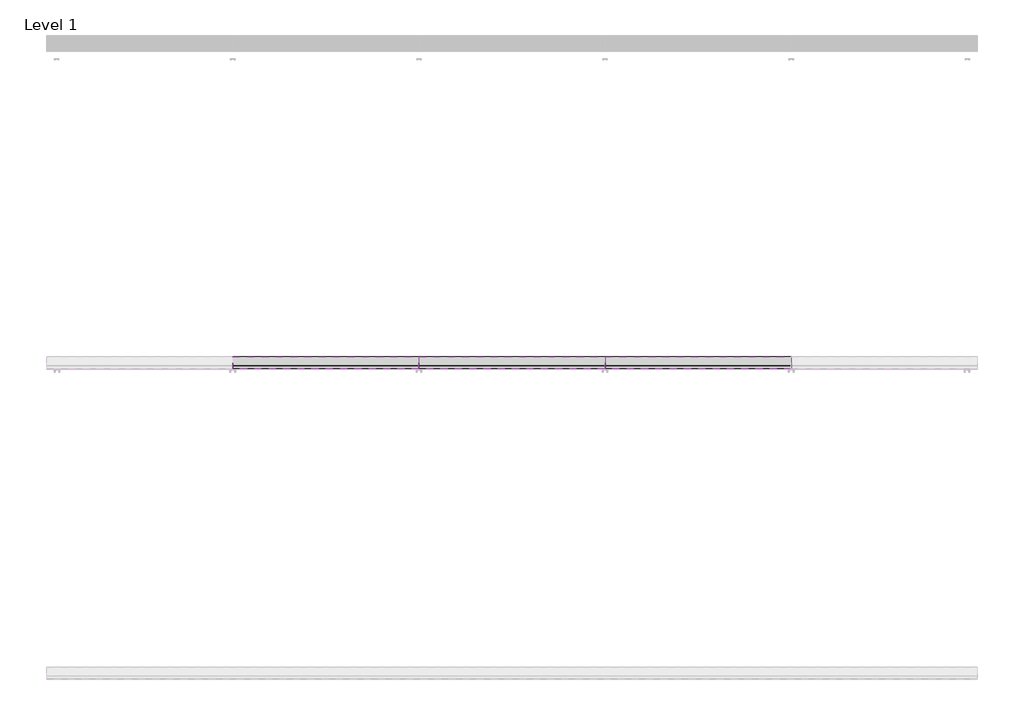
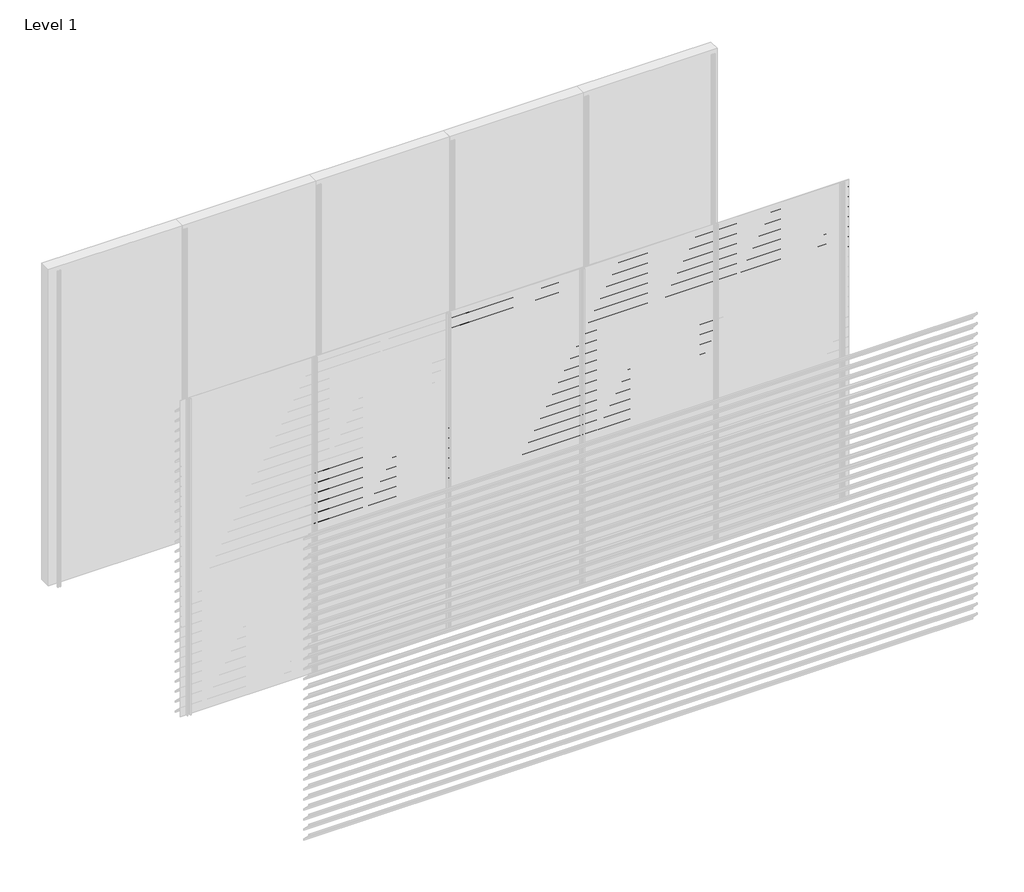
# One storey, part 21 of 24: 89 proxies.
"""IFC4 building model written with IfcOpenShell, lengths in millimetres."""

from ifc_helpers import new_model, si_unit, frame, origin, place, context, project, spatial, polyline, outline, extrude, element, save

model = new_model("IFC4")

# Units and contexts
model_context = context("Model", 3, world=origin())
ifc_project = project(units=[si_unit("LENGTHUNIT", "METRE", prefix="MILLI")], contexts=[model_context])

# Site, building, storey
site = spatial("IfcSite", under=ifc_project)
building = spatial("IfcBuilding", under=site)
storey = spatial("IfcBuildingStorey", under=building, Name="Level 1", Elevation=0.0)

# Proxies
placement = place(None, origin())
element("IfcBuildingElementProxy", 1, Name="Wall Sweeps", at=placement, inside=storey, context=model_context, shape_type="SweptSolid", body=[
    extrude(outline(polyline([(-5920.8, 1797.9), (-5922.3, 1797.9), (-5922.3, 1810.1762333), (-5998.0, 1885.4561238), (-5998.0, 1900.0), (-5996.5, 1900.0), (-5996.5, 1886.0798905), (-5920.8, 1810.8), (-5920.8, 1797.9)])), frame((1200.0, 0.0, 0.0), z_axis=(1.0, 0.0, 0.0), x_axis=(0.0, 1.0, 0.0)), (0.0, 0.0, 1.0), 1200.0),
])
element("IfcBuildingElementProxy", 2, Name="Wall Sweeps", at=placement, inside=storey, context=model_context, shape_type="SweptSolid", body=[
    extrude(outline(polyline([(-5920.8, 1702.9), (-5922.3, 1702.9), (-5922.3, 1715.1762333), (-5998.0, 1790.4561238), (-5998.0, 1805.0), (-5996.5, 1805.0), (-5996.5, 1791.0798905), (-5920.8, 1715.8), (-5920.8, 1702.9)])), frame((1200.0, 0.0, 0.0), z_axis=(1.0, 0.0, 0.0), x_axis=(0.0, 1.0, 0.0)), (0.0, 0.0, 1.0), 1200.0),
])
element("IfcBuildingElementProxy", 3, Name="Wall Sweeps", at=placement, inside=storey, context=model_context, shape_type="SweptSolid", body=[
    extrude(outline(polyline([(-5920.8, 1607.9), (-5922.3, 1607.9), (-5922.3, 1620.1762333), (-5998.0, 1695.4561238), (-5998.0, 1710.0), (-5996.5, 1710.0), (-5996.5, 1696.0798905), (-5920.8, 1620.8), (-5920.8, 1607.9)])), frame((1200.0, 0.0, 0.0), z_axis=(1.0, 0.0, 0.0), x_axis=(0.0, 1.0, 0.0)), (0.0, 0.0, 1.0), 1200.0),
])
element("IfcBuildingElementProxy", 4, Name="Wall Sweeps", at=placement, inside=storey, context=model_context, shape_type="SweptSolid", body=[
    extrude(outline(polyline([(-5920.8, 1512.9), (-5922.3, 1512.9), (-5922.3, 1525.1762333), (-5998.0, 1600.4561238), (-5998.0, 1615.0), (-5996.5, 1615.0), (-5996.5, 1601.0798905), (-5920.8, 1525.8), (-5920.8, 1512.9)])), frame((1200.0, 0.0, 0.0), z_axis=(1.0, 0.0, 0.0), x_axis=(0.0, 1.0, 0.0)), (0.0, 0.0, 1.0), 1200.0),
])
element("IfcBuildingElementProxy", 5, Name="Wall Sweeps", at=placement, inside=storey, context=model_context, shape_type="SweptSolid", body=[
    extrude(outline(polyline([(-5920.8, 1417.9), (-5922.3, 1417.9), (-5922.3, 1430.1762333), (-5998.0, 1505.4561238), (-5998.0, 1520.0), (-5996.5, 1520.0), (-5996.5, 1506.0798905), (-5920.8, 1430.8), (-5920.8, 1417.9)])), frame((1200.0, 0.0, 0.0), z_axis=(1.0, 0.0, 0.0), x_axis=(0.0, 1.0, 0.0)), (0.0, 0.0, 1.0), 1200.0),
])
element("IfcBuildingElementProxy", 6, Name="Wall Sweeps", at=placement, inside=storey, context=model_context, shape_type="SweptSolid", body=[
    extrude(outline(polyline([(-5920.8, 1322.9), (-5922.3, 1322.9), (-5922.3, 1335.1762333), (-5998.0, 1410.4561238), (-5998.0, 1425.0), (-5996.5, 1425.0), (-5996.5, 1411.0798905), (-5920.8, 1335.8), (-5920.8, 1322.9)])), frame((1200.0, 0.0, 0.0), z_axis=(1.0, 0.0, 0.0), x_axis=(0.0, 1.0, 0.0)), (0.0, 0.0, 1.0), 1200.0),
])
element("IfcBuildingElementProxy", 7, Name="Wall Sweeps", at=placement, inside=storey, context=model_context, shape_type="SweptSolid", body=[
    extrude(outline(polyline([(-5920.8, 1227.9), (-5922.3, 1227.9), (-5922.3, 1240.1762333), (-5998.0, 1315.4561238), (-5998.0, 1330.0), (-5996.5, 1330.0), (-5996.5, 1316.0798905), (-5920.8, 1240.8), (-5920.8, 1227.9)])), frame((1200.0, 0.0, 0.0), z_axis=(1.0, 0.0, 0.0), x_axis=(0.0, 1.0, 0.0)), (0.0, 0.0, 1.0), 1200.0),
])
element("IfcBuildingElementProxy", 8, Name="Wall Sweeps", at=placement, inside=storey, context=model_context, shape_type="SweptSolid", body=[
    extrude(outline(polyline([(-5920.8, 1132.9), (-5922.3, 1132.9), (-5922.3, 1145.1762333), (-5998.0, 1220.4561238), (-5998.0, 1235.0), (-5996.5, 1235.0), (-5996.5, 1221.0798905), (-5920.8, 1145.8), (-5920.8, 1132.9)])), frame((1200.0, 0.0, 0.0), z_axis=(1.0, 0.0, 0.0), x_axis=(0.0, 1.0, 0.0)), (0.0, 0.0, 1.0), 1200.0),
])
element("IfcBuildingElementProxy", 9, Name="Wall Sweeps", at=placement, inside=storey, context=model_context, shape_type="SweptSolid", body=[
    extrude(outline(polyline([(-5920.8, 1037.9), (-5922.3, 1037.9), (-5922.3, 1050.1762333), (-5998.0, 1125.4561238), (-5998.0, 1140.0), (-5996.5, 1140.0), (-5996.5, 1126.0798905), (-5920.8, 1050.8), (-5920.8, 1037.9)])), frame((1200.0, 0.0, 0.0), z_axis=(1.0, 0.0, 0.0), x_axis=(0.0, 1.0, 0.0)), (0.0, 0.0, 1.0), 1200.0),
])
element("IfcBuildingElementProxy", 10, Name="Wall Sweeps", at=placement, inside=storey, context=model_context, shape_type="SweptSolid", body=[
    extrude(outline(polyline([(-5920.8, 942.9), (-5922.3, 942.9), (-5922.3, 955.1762333), (-5998.0, 1030.4561238), (-5998.0, 1045.0), (-5996.5, 1045.0), (-5996.5, 1031.0798905), (-5920.8, 955.8), (-5920.8, 942.9)])), frame((1200.0, 0.0, 0.0), z_axis=(1.0, 0.0, 0.0), x_axis=(0.0, 1.0, 0.0)), (0.0, 0.0, 1.0), 1200.0),
])
element("IfcBuildingElementProxy", 11, Name="Wall Sweeps", at=placement, inside=storey, context=model_context, shape_type="SweptSolid", body=[
    extrude(outline(polyline([(-5920.8, 847.9), (-5922.3, 847.9), (-5922.3, 860.1762333), (-5998.0, 935.4561238), (-5998.0, 950.0), (-5996.5, 950.0), (-5996.5, 936.0798905), (-5920.8, 860.8), (-5920.8, 847.9)])), frame((1200.0, 0.0, 0.0), z_axis=(1.0, 0.0, 0.0), x_axis=(0.0, 1.0, 0.0)), (0.0, 0.0, 1.0), 1200.0),
])
element("IfcBuildingElementProxy", 12, Name="Wall Sweeps", at=placement, inside=storey, context=model_context, shape_type="SweptSolid", body=[
    extrude(outline(polyline([(-5920.8, 752.9), (-5922.3, 752.9), (-5922.3, 765.1762333), (-5998.0, 840.4561238), (-5998.0, 855.0), (-5996.5, 855.0), (-5996.5, 841.0798905), (-5920.8, 765.8), (-5920.8, 752.9)])), frame((1200.0, 0.0, 0.0), z_axis=(1.0, 0.0, 0.0), x_axis=(0.0, 1.0, 0.0)), (0.0, 0.0, 1.0), 1200.0),
])
element("IfcBuildingElementProxy", 13, Name="Wall Sweeps", at=placement, inside=storey, context=model_context, shape_type="SweptSolid", body=[
    extrude(outline(polyline([(-5920.8, 657.9), (-5922.3, 657.9), (-5922.3, 670.1762333), (-5998.0, 745.4561238), (-5998.0, 760.0), (-5996.5, 760.0), (-5996.5, 746.0798905), (-5920.8, 670.8), (-5920.8, 657.9)])), frame((1200.0, 0.0, 0.0), z_axis=(1.0, 0.0, 0.0), x_axis=(0.0, 1.0, 0.0)), (0.0, 0.0, 1.0), 1200.0),
])
element("IfcBuildingElementProxy", 14, Name="Wall Sweeps", at=placement, inside=storey, context=model_context, shape_type="SweptSolid", body=[
    extrude(outline(polyline([(-5920.8, 562.9), (-5922.3, 562.9), (-5922.3, 575.1762333), (-5998.0, 650.4561238), (-5998.0, 665.0), (-5996.5, 665.0), (-5996.5, 651.0798905), (-5920.8, 575.8), (-5920.8, 562.9)])), frame((1200.0, 0.0, 0.0), z_axis=(1.0, 0.0, 0.0), x_axis=(0.0, 1.0, 0.0)), (0.0, 0.0, 1.0), 1200.0),
])
element("IfcBuildingElementProxy", 15, Name="Wall Sweeps", at=placement, inside=storey, context=model_context, shape_type="SweptSolid", body=[
    extrude(outline(polyline([(-5920.8, 467.9), (-5922.3, 467.9), (-5922.3, 480.1762333), (-5998.0, 555.4561238), (-5998.0, 570.0), (-5996.5, 570.0), (-5996.5, 556.0798905), (-5920.8, 480.8), (-5920.8, 467.9)])), frame((1200.0, 0.0, 0.0), z_axis=(1.0, 0.0, 0.0), x_axis=(0.0, 1.0, 0.0)), (0.0, 0.0, 1.0), 1200.0),
])
element("IfcBuildingElementProxy", 16, Name="Wall Sweeps", at=placement, inside=storey, context=model_context, shape_type="SweptSolid", body=[
    extrude(outline(polyline([(-5920.8, 372.9), (-5922.3, 372.9), (-5922.3, 385.1762333), (-5998.0, 460.4561238), (-5998.0, 475.0), (-5996.5, 475.0), (-5996.5, 461.0798905), (-5920.8, 385.8), (-5920.8, 372.9)])), frame((1200.0, 0.0, 0.0), z_axis=(1.0, 0.0, 0.0), x_axis=(0.0, 1.0, 0.0)), (0.0, 0.0, 1.0), 1200.0),
])
element("IfcBuildingElementProxy", 17, Name="Wall Sweeps", at=placement, inside=storey, context=model_context, shape_type="SweptSolid", body=[
    extrude(outline(polyline([(-5920.8, 277.9), (-5922.3, 277.9), (-5922.3, 290.1762333), (-5998.0, 365.4561238), (-5998.0, 380.0), (-5996.5, 380.0), (-5996.5, 366.0798905), (-5920.8, 290.8), (-5920.8, 277.9)])), frame((1200.0, 0.0, 0.0), z_axis=(1.0, 0.0, 0.0), x_axis=(0.0, 1.0, 0.0)), (0.0, 0.0, 1.0), 1200.0),
])
element("IfcBuildingElementProxy", 18, Name="Wall Sweeps", at=placement, inside=storey, context=model_context, shape_type="SweptSolid", body=[
    extrude(outline(polyline([(-5920.8, 182.9), (-5922.3, 182.9), (-5922.3, 195.1762333), (-5998.0, 270.4561238), (-5998.0, 285.0), (-5996.5, 285.0), (-5996.5, 271.0798905), (-5920.8, 195.8), (-5920.8, 182.9)])), frame((1200.0, 0.0, 0.0), z_axis=(1.0, 0.0, 0.0), x_axis=(0.0, 1.0, 0.0)), (0.0, 0.0, 1.0), 1200.0),
])
element("IfcBuildingElementProxy", 19, Name="Wall Sweeps", at=placement, inside=storey, context=model_context, shape_type="SweptSolid", body=[
    extrude(outline(polyline([(-5920.8, 87.9), (-5922.3, 87.9), (-5922.3, 100.1762333), (-5998.0, 175.4561238), (-5998.0, 190.0), (-5996.5, 190.0), (-5996.5, 176.0798905), (-5920.8, 100.8), (-5920.8, 87.9)])), frame((1200.0, 0.0, 0.0), z_axis=(1.0, 0.0, 0.0), x_axis=(0.0, 1.0, 0.0)), (0.0, 0.0, 1.0), 1200.0),
])
element("IfcBuildingElementProxy", 20, Name="Wall Sweeps", at=placement, inside=storey, context=model_context, shape_type="SweptSolid", body=[
    extrude(outline(polyline([(-5920.8, -7.1), (-5922.3, -7.1), (-5922.3, 5.1762333), (-5998.0, 80.4561238), (-5998.0, 95.0), (-5996.5, 95.0), (-5996.5, 81.0798905), (-5920.8, 5.8), (-5920.8, -7.1)])), frame((1200.0, 0.0, 0.0), z_axis=(1.0, 0.0, 0.0), x_axis=(0.0, 1.0, 0.0)), (0.0, 0.0, 1.0), 1200.0),
])
element("IfcBuildingElementProxy", 21, Name="Wall Sweeps", at=placement, inside=storey, context=model_context, shape_type="SweptSolid", body=[
    extrude(outline(polyline([(-5920.8, 2842.9), (-5922.3, 2842.9), (-5922.3, 2855.1762333), (-5998.0, 2930.4561238), (-5998.0, 2945.0), (-5996.5, 2945.0), (-5996.5, 2931.0798905), (-5920.8, 2855.8), (-5920.8, 2842.9)])), frame((2400.0, 0.0, 0.0), z_axis=(1.0, 0.0, 0.0), x_axis=(0.0, 1.0, 0.0)), (0.0, 0.0, 1.0), 1200.0),
])
element("IfcBuildingElementProxy", 22, Name="Wall Sweeps", at=placement, inside=storey, context=model_context, shape_type="SweptSolid", body=[
    extrude(outline(polyline([(-5920.8, 2747.9), (-5922.3, 2747.9), (-5922.3, 2760.1762333), (-5998.0, 2835.4561238), (-5998.0, 2850.0), (-5996.5, 2850.0), (-5996.5, 2836.0798905), (-5920.8, 2760.8), (-5920.8, 2747.9)])), frame((2400.0, 0.0, 0.0), z_axis=(1.0, 0.0, 0.0), x_axis=(0.0, 1.0, 0.0)), (0.0, 0.0, 1.0), 1200.0),
])
element("IfcBuildingElementProxy", 23, Name="Wall Sweeps", at=placement, inside=storey, context=model_context, shape_type="SweptSolid", body=[
    extrude(outline(polyline([(-5920.8, 2652.9), (-5922.3, 2652.9), (-5922.3, 2665.1762333), (-5998.0, 2740.4561238), (-5998.0, 2755.0), (-5996.5, 2755.0), (-5996.5, 2741.0798905), (-5920.8, 2665.8), (-5920.8, 2652.9)])), frame((2400.0, 0.0, 0.0), z_axis=(1.0, 0.0, 0.0), x_axis=(0.0, 1.0, 0.0)), (0.0, 0.0, 1.0), 1200.0),
])
element("IfcBuildingElementProxy", 24, Name="Wall Sweeps", at=placement, inside=storey, context=model_context, shape_type="SweptSolid", body=[
    extrude(outline(polyline([(-5920.8, 2557.9), (-5922.3, 2557.9), (-5922.3, 2570.1762333), (-5998.0, 2645.4561238), (-5998.0, 2660.0), (-5996.5, 2660.0), (-5996.5, 2646.0798905), (-5920.8, 2570.8), (-5920.8, 2557.9)])), frame((2400.0, 0.0, 0.0), z_axis=(1.0, 0.0, 0.0), x_axis=(0.0, 1.0, 0.0)), (0.0, 0.0, 1.0), 1200.0),
])
element("IfcBuildingElementProxy", 25, Name="Wall Sweeps", at=placement, inside=storey, context=model_context, shape_type="SweptSolid", body=[
    extrude(outline(polyline([(-5920.8, 2462.9), (-5922.3, 2462.9), (-5922.3, 2475.1762333), (-5998.0, 2550.4561238), (-5998.0, 2565.0), (-5996.5, 2565.0), (-5996.5, 2551.0798905), (-5920.8, 2475.8), (-5920.8, 2462.9)])), frame((2400.0, 0.0, 0.0), z_axis=(1.0, 0.0, 0.0), x_axis=(0.0, 1.0, 0.0)), (0.0, 0.0, 1.0), 1200.0),
])
element("IfcBuildingElementProxy", 26, Name="Wall Sweeps", at=placement, inside=storey, context=model_context, shape_type="SweptSolid", body=[
    extrude(outline(polyline([(-5920.8, 2367.9), (-5922.3, 2367.9), (-5922.3, 2380.1762333), (-5998.0, 2455.4561238), (-5998.0, 2470.0), (-5996.5, 2470.0), (-5996.5, 2456.0798905), (-5920.8, 2380.8), (-5920.8, 2367.9)])), frame((2400.0, 0.0, 0.0), z_axis=(1.0, 0.0, 0.0), x_axis=(0.0, 1.0, 0.0)), (0.0, 0.0, 1.0), 1200.0),
])
element("IfcBuildingElementProxy", 27, Name="Wall Sweeps", at=placement, inside=storey, context=model_context, shape_type="SweptSolid", body=[
    extrude(outline(polyline([(-5920.8, 2272.9), (-5922.3, 2272.9), (-5922.3, 2285.1762333), (-5998.0, 2360.4561238), (-5998.0, 2375.0), (-5996.5, 2375.0), (-5996.5, 2361.0798905), (-5920.8, 2285.8), (-5920.8, 2272.9)])), frame((2400.0, 0.0, 0.0), z_axis=(1.0, 0.0, 0.0), x_axis=(0.0, 1.0, 0.0)), (0.0, 0.0, 1.0), 1200.0),
])
element("IfcBuildingElementProxy", 28, Name="Wall Sweeps", at=placement, inside=storey, context=model_context, shape_type="SweptSolid", body=[
    extrude(outline(polyline([(-5920.8, 2177.9), (-5922.3, 2177.9), (-5922.3, 2190.1762333), (-5998.0, 2265.4561238), (-5998.0, 2280.0), (-5996.5, 2280.0), (-5996.5, 2266.0798905), (-5920.8, 2190.8), (-5920.8, 2177.9)])), frame((2400.0, 0.0, 0.0), z_axis=(1.0, 0.0, 0.0), x_axis=(0.0, 1.0, 0.0)), (0.0, 0.0, 1.0), 1200.0),
])
element("IfcBuildingElementProxy", 29, Name="Wall Sweeps", at=placement, inside=storey, context=model_context, shape_type="SweptSolid", body=[
    extrude(outline(polyline([(-5920.8, 2082.9), (-5922.3, 2082.9), (-5922.3, 2095.1762333), (-5998.0, 2170.4561238), (-5998.0, 2185.0), (-5996.5, 2185.0), (-5996.5, 2171.0798905), (-5920.8, 2095.8), (-5920.8, 2082.9)])), frame((2400.0, 0.0, 0.0), z_axis=(1.0, 0.0, 0.0), x_axis=(0.0, 1.0, 0.0)), (0.0, 0.0, 1.0), 1200.0),
])
element("IfcBuildingElementProxy", 30, Name="Wall Sweeps", at=placement, inside=storey, context=model_context, shape_type="SweptSolid", body=[
    extrude(outline(polyline([(-5920.8, 1987.9), (-5922.3, 1987.9), (-5922.3, 2000.1762333), (-5998.0, 2075.4561238), (-5998.0, 2090.0), (-5996.5, 2090.0), (-5996.5, 2076.0798905), (-5920.8, 2000.8), (-5920.8, 1987.9)])), frame((2400.0, 0.0, 0.0), z_axis=(1.0, 0.0, 0.0), x_axis=(0.0, 1.0, 0.0)), (0.0, 0.0, 1.0), 1200.0),
])
element("IfcBuildingElementProxy", 31, Name="Wall Sweeps", at=placement, inside=storey, context=model_context, shape_type="SweptSolid", body=[
    extrude(outline(polyline([(-5920.8, 1892.9), (-5922.3, 1892.9), (-5922.3, 1905.1762333), (-5998.0, 1980.4561238), (-5998.0, 1995.0), (-5996.5, 1995.0), (-5996.5, 1981.0798905), (-5920.8, 1905.8), (-5920.8, 1892.9)])), frame((2400.0, 0.0, 0.0), z_axis=(1.0, 0.0, 0.0), x_axis=(0.0, 1.0, 0.0)), (0.0, 0.0, 1.0), 1200.0),
])
element("IfcBuildingElementProxy", 32, Name="Wall Sweeps", at=placement, inside=storey, context=model_context, shape_type="SweptSolid", body=[
    extrude(outline(polyline([(-5920.8, 1797.9), (-5922.3, 1797.9), (-5922.3, 1810.1762333), (-5998.0, 1885.4561238), (-5998.0, 1900.0), (-5996.5, 1900.0), (-5996.5, 1886.0798905), (-5920.8, 1810.8), (-5920.8, 1797.9)])), frame((2400.0, 0.0, 0.0), z_axis=(1.0, 0.0, 0.0), x_axis=(0.0, 1.0, 0.0)), (0.0, 0.0, 1.0), 1200.0),
])
element("IfcBuildingElementProxy", 33, Name="Wall Sweeps", at=placement, inside=storey, context=model_context, shape_type="SweptSolid", body=[
    extrude(outline(polyline([(-5920.8, 1702.9), (-5922.3, 1702.9), (-5922.3, 1715.1762333), (-5998.0, 1790.4561238), (-5998.0, 1805.0), (-5996.5, 1805.0), (-5996.5, 1791.0798905), (-5920.8, 1715.8), (-5920.8, 1702.9)])), frame((2400.0, 0.0, 0.0), z_axis=(1.0, 0.0, 0.0), x_axis=(0.0, 1.0, 0.0)), (0.0, 0.0, 1.0), 1200.0),
])
element("IfcBuildingElementProxy", 34, Name="Wall Sweeps", at=placement, inside=storey, context=model_context, shape_type="SweptSolid", body=[
    extrude(outline(polyline([(-5920.8, 1607.9), (-5922.3, 1607.9), (-5922.3, 1620.1762333), (-5998.0, 1695.4561238), (-5998.0, 1710.0), (-5996.5, 1710.0), (-5996.5, 1696.0798905), (-5920.8, 1620.8), (-5920.8, 1607.9)])), frame((2400.0, 0.0, 0.0), z_axis=(1.0, 0.0, 0.0), x_axis=(0.0, 1.0, 0.0)), (0.0, 0.0, 1.0), 1200.0),
])
element("IfcBuildingElementProxy", 35, Name="Wall Sweeps", at=placement, inside=storey, context=model_context, shape_type="SweptSolid", body=[
    extrude(outline(polyline([(-5920.8, 1512.9), (-5922.3, 1512.9), (-5922.3, 1525.1762333), (-5998.0, 1600.4561238), (-5998.0, 1615.0), (-5996.5, 1615.0), (-5996.5, 1601.0798905), (-5920.8, 1525.8), (-5920.8, 1512.9)])), frame((2400.0, 0.0, 0.0), z_axis=(1.0, 0.0, 0.0), x_axis=(0.0, 1.0, 0.0)), (0.0, 0.0, 1.0), 1200.0),
])
element("IfcBuildingElementProxy", 36, Name="Wall Sweeps", at=placement, inside=storey, context=model_context, shape_type="SweptSolid", body=[
    extrude(outline(polyline([(-5920.8, 1417.9), (-5922.3, 1417.9), (-5922.3, 1430.1762333), (-5998.0, 1505.4561238), (-5998.0, 1520.0), (-5996.5, 1520.0), (-5996.5, 1506.0798905), (-5920.8, 1430.8), (-5920.8, 1417.9)])), frame((2400.0, 0.0, 0.0), z_axis=(1.0, 0.0, 0.0), x_axis=(0.0, 1.0, 0.0)), (0.0, 0.0, 1.0), 1200.0),
])
element("IfcBuildingElementProxy", 37, Name="Wall Sweeps", at=placement, inside=storey, context=model_context, shape_type="SweptSolid", body=[
    extrude(outline(polyline([(-5920.8, 1322.9), (-5922.3, 1322.9), (-5922.3, 1335.1762333), (-5998.0, 1410.4561238), (-5998.0, 1425.0), (-5996.5, 1425.0), (-5996.5, 1411.0798905), (-5920.8, 1335.8), (-5920.8, 1322.9)])), frame((2400.0, 0.0, 0.0), z_axis=(1.0, 0.0, 0.0), x_axis=(0.0, 1.0, 0.0)), (0.0, 0.0, 1.0), 1200.0),
])
element("IfcBuildingElementProxy", 38, Name="Wall Sweeps", at=placement, inside=storey, context=model_context, shape_type="SweptSolid", body=[
    extrude(outline(polyline([(-5920.8, 1227.9), (-5922.3, 1227.9), (-5922.3, 1240.1762333), (-5998.0, 1315.4561238), (-5998.0, 1330.0), (-5996.5, 1330.0), (-5996.5, 1316.0798905), (-5920.8, 1240.8), (-5920.8, 1227.9)])), frame((2400.0, 0.0, 0.0), z_axis=(1.0, 0.0, 0.0), x_axis=(0.0, 1.0, 0.0)), (0.0, 0.0, 1.0), 1200.0),
])
element("IfcBuildingElementProxy", 39, Name="Wall Sweeps", at=placement, inside=storey, context=model_context, shape_type="SweptSolid", body=[
    extrude(outline(polyline([(-5920.8, 1132.9), (-5922.3, 1132.9), (-5922.3, 1145.1762333), (-5998.0, 1220.4561238), (-5998.0, 1235.0), (-5996.5, 1235.0), (-5996.5, 1221.0798905), (-5920.8, 1145.8), (-5920.8, 1132.9)])), frame((2400.0, 0.0, 0.0), z_axis=(1.0, 0.0, 0.0), x_axis=(0.0, 1.0, 0.0)), (0.0, 0.0, 1.0), 1200.0),
])
element("IfcBuildingElementProxy", 40, Name="Wall Sweeps", at=placement, inside=storey, context=model_context, shape_type="SweptSolid", body=[
    extrude(outline(polyline([(-5920.8, 1037.9), (-5922.3, 1037.9), (-5922.3, 1050.1762333), (-5998.0, 1125.4561238), (-5998.0, 1140.0), (-5996.5, 1140.0), (-5996.5, 1126.0798905), (-5920.8, 1050.8), (-5920.8, 1037.9)])), frame((2400.0, 0.0, 0.0), z_axis=(1.0, 0.0, 0.0), x_axis=(0.0, 1.0, 0.0)), (0.0, 0.0, 1.0), 1200.0),
])
element("IfcBuildingElementProxy", 41, Name="Wall Sweeps", at=placement, inside=storey, context=model_context, shape_type="SweptSolid", body=[
    extrude(outline(polyline([(-5920.8, 942.9), (-5922.3, 942.9), (-5922.3, 955.1762333), (-5998.0, 1030.4561238), (-5998.0, 1045.0), (-5996.5, 1045.0), (-5996.5, 1031.0798905), (-5920.8, 955.8), (-5920.8, 942.9)])), frame((2400.0, 0.0, 0.0), z_axis=(1.0, 0.0, 0.0), x_axis=(0.0, 1.0, 0.0)), (0.0, 0.0, 1.0), 1200.0),
])
element("IfcBuildingElementProxy", 42, Name="Wall Sweeps", at=placement, inside=storey, context=model_context, shape_type="SweptSolid", body=[
    extrude(outline(polyline([(-5920.8, 847.9), (-5922.3, 847.9), (-5922.3, 860.1762333), (-5998.0, 935.4561238), (-5998.0, 950.0), (-5996.5, 950.0), (-5996.5, 936.0798905), (-5920.8, 860.8), (-5920.8, 847.9)])), frame((2400.0, 0.0, 0.0), z_axis=(1.0, 0.0, 0.0), x_axis=(0.0, 1.0, 0.0)), (0.0, 0.0, 1.0), 1200.0),
])
element("IfcBuildingElementProxy", 43, Name="Wall Sweeps", at=placement, inside=storey, context=model_context, shape_type="SweptSolid", body=[
    extrude(outline(polyline([(-5920.8, 752.9), (-5922.3, 752.9), (-5922.3, 765.1762333), (-5998.0, 840.4561238), (-5998.0, 855.0), (-5996.5, 855.0), (-5996.5, 841.0798905), (-5920.8, 765.8), (-5920.8, 752.9)])), frame((2400.0, 0.0, 0.0), z_axis=(1.0, 0.0, 0.0), x_axis=(0.0, 1.0, 0.0)), (0.0, 0.0, 1.0), 1200.0),
])
element("IfcBuildingElementProxy", 44, Name="Wall Sweeps", at=placement, inside=storey, context=model_context, shape_type="SweptSolid", body=[
    extrude(outline(polyline([(-5920.8, 657.9), (-5922.3, 657.9), (-5922.3, 670.1762333), (-5998.0, 745.4561238), (-5998.0, 760.0), (-5996.5, 760.0), (-5996.5, 746.0798905), (-5920.8, 670.8), (-5920.8, 657.9)])), frame((2400.0, 0.0, 0.0), z_axis=(1.0, 0.0, 0.0), x_axis=(0.0, 1.0, 0.0)), (0.0, 0.0, 1.0), 1200.0),
])
element("IfcBuildingElementProxy", 45, Name="Wall Sweeps", at=placement, inside=storey, context=model_context, shape_type="SweptSolid", body=[
    extrude(outline(polyline([(-5920.8, 562.9), (-5922.3, 562.9), (-5922.3, 575.1762333), (-5998.0, 650.4561238), (-5998.0, 665.0), (-5996.5, 665.0), (-5996.5, 651.0798905), (-5920.8, 575.8), (-5920.8, 562.9)])), frame((2400.0, 0.0, 0.0), z_axis=(1.0, 0.0, 0.0), x_axis=(0.0, 1.0, 0.0)), (0.0, 0.0, 1.0), 1200.0),
])
element("IfcBuildingElementProxy", 46, Name="Wall Sweeps", at=placement, inside=storey, context=model_context, shape_type="SweptSolid", body=[
    extrude(outline(polyline([(-5920.8, 467.9), (-5922.3, 467.9), (-5922.3, 480.1762333), (-5998.0, 555.4561238), (-5998.0, 570.0), (-5996.5, 570.0), (-5996.5, 556.0798905), (-5920.8, 480.8), (-5920.8, 467.9)])), frame((2400.0, 0.0, 0.0), z_axis=(1.0, 0.0, 0.0), x_axis=(0.0, 1.0, 0.0)), (0.0, 0.0, 1.0), 1200.0),
])
element("IfcBuildingElementProxy", 47, Name="Wall Sweeps", at=placement, inside=storey, context=model_context, shape_type="SweptSolid", body=[
    extrude(outline(polyline([(-5920.8, 372.9), (-5922.3, 372.9), (-5922.3, 385.1762333), (-5998.0, 460.4561238), (-5998.0, 475.0), (-5996.5, 475.0), (-5996.5, 461.0798905), (-5920.8, 385.8), (-5920.8, 372.9)])), frame((2400.0, 0.0, 0.0), z_axis=(1.0, 0.0, 0.0), x_axis=(0.0, 1.0, 0.0)), (0.0, 0.0, 1.0), 1200.0),
])
element("IfcBuildingElementProxy", 48, Name="Wall Sweeps", at=placement, inside=storey, context=model_context, shape_type="SweptSolid", body=[
    extrude(outline(polyline([(-5920.8, 277.9), (-5922.3, 277.9), (-5922.3, 290.1762333), (-5998.0, 365.4561238), (-5998.0, 380.0), (-5996.5, 380.0), (-5996.5, 366.0798905), (-5920.8, 290.8), (-5920.8, 277.9)])), frame((2400.0, 0.0, 0.0), z_axis=(1.0, 0.0, 0.0), x_axis=(0.0, 1.0, 0.0)), (0.0, 0.0, 1.0), 1200.0),
])
element("IfcBuildingElementProxy", 49, Name="Wall Sweeps", at=placement, inside=storey, context=model_context, shape_type="SweptSolid", body=[
    extrude(outline(polyline([(-5920.8, 182.9), (-5922.3, 182.9), (-5922.3, 195.1762333), (-5998.0, 270.4561238), (-5998.0, 285.0), (-5996.5, 285.0), (-5996.5, 271.0798905), (-5920.8, 195.8), (-5920.8, 182.9)])), frame((2400.0, 0.0, 0.0), z_axis=(1.0, 0.0, 0.0), x_axis=(0.0, 1.0, 0.0)), (0.0, 0.0, 1.0), 1200.0),
])
element("IfcBuildingElementProxy", 50, Name="Wall Sweeps", at=placement, inside=storey, context=model_context, shape_type="SweptSolid", body=[
    extrude(outline(polyline([(-5920.8, 87.9), (-5922.3, 87.9), (-5922.3, 100.1762333), (-5998.0, 175.4561238), (-5998.0, 190.0), (-5996.5, 190.0), (-5996.5, 176.0798905), (-5920.8, 100.8), (-5920.8, 87.9)])), frame((2400.0, 0.0, 0.0), z_axis=(1.0, 0.0, 0.0), x_axis=(0.0, 1.0, 0.0)), (0.0, 0.0, 1.0), 1200.0),
])
element("IfcBuildingElementProxy", 51, Name="Wall Sweeps", at=placement, inside=storey, context=model_context, shape_type="SweptSolid", body=[
    extrude(outline(polyline([(-5920.8, -7.1), (-5922.3, -7.1), (-5922.3, 5.1762333), (-5998.0, 80.4561238), (-5998.0, 95.0), (-5996.5, 95.0), (-5996.5, 81.0798905), (-5920.8, 5.8), (-5920.8, -7.1)])), frame((2400.0, 0.0, 0.0), z_axis=(1.0, 0.0, 0.0), x_axis=(0.0, 1.0, 0.0)), (0.0, 0.0, 1.0), 1200.0),
])
element("IfcBuildingElementProxy", 52, Name="Wall Sweeps", at=placement, inside=storey, context=model_context, shape_type="SweptSolid", body=[
    extrude(outline(polyline([(-5920.8, 2842.9), (-5922.3, 2842.9), (-5922.3, 2855.1762333), (-5998.0, 2930.4561238), (-5998.0, 2945.0), (-5996.5, 2945.0), (-5996.5, 2931.0798905), (-5920.8, 2855.8), (-5920.8, 2842.9)])), frame((3600.0, 0.0, 0.0), z_axis=(1.0, 0.0, 0.0), x_axis=(0.0, 1.0, 0.0)), (0.0, 0.0, 1.0), 1200.0),
])
element("IfcBuildingElementProxy", 53, Name="Wall Sweeps", at=placement, inside=storey, context=model_context, shape_type="SweptSolid", body=[
    extrude(outline(polyline([(-5920.8, 2747.9), (-5922.3, 2747.9), (-5922.3, 2760.1762333), (-5998.0, 2835.4561238), (-5998.0, 2850.0), (-5996.5, 2850.0), (-5996.5, 2836.0798905), (-5920.8, 2760.8), (-5920.8, 2747.9)])), frame((3600.0, 0.0, 0.0), z_axis=(1.0, 0.0, 0.0), x_axis=(0.0, 1.0, 0.0)), (0.0, 0.0, 1.0), 1200.0),
])
element("IfcBuildingElementProxy", 54, Name="Wall Sweeps", at=placement, inside=storey, context=model_context, shape_type="SweptSolid", body=[
    extrude(outline(polyline([(-5920.8, 2652.9), (-5922.3, 2652.9), (-5922.3, 2665.1762333), (-5998.0, 2740.4561238), (-5998.0, 2755.0), (-5996.5, 2755.0), (-5996.5, 2741.0798905), (-5920.8, 2665.8), (-5920.8, 2652.9)])), frame((3600.0, 0.0, 0.0), z_axis=(1.0, 0.0, 0.0), x_axis=(0.0, 1.0, 0.0)), (0.0, 0.0, 1.0), 1200.0),
])
element("IfcBuildingElementProxy", 55, Name="Wall Sweeps", at=placement, inside=storey, context=model_context, shape_type="SweptSolid", body=[
    extrude(outline(polyline([(-5920.8, 2557.9), (-5922.3, 2557.9), (-5922.3, 2570.1762333), (-5998.0, 2645.4561238), (-5998.0, 2660.0), (-5996.5, 2660.0), (-5996.5, 2646.0798905), (-5920.8, 2570.8), (-5920.8, 2557.9)])), frame((3600.0, 0.0, 0.0), z_axis=(1.0, 0.0, 0.0), x_axis=(0.0, 1.0, 0.0)), (0.0, 0.0, 1.0), 1200.0),
])
element("IfcBuildingElementProxy", 56, Name="Wall Sweeps", at=placement, inside=storey, context=model_context, shape_type="SweptSolid", body=[
    extrude(outline(polyline([(-5920.8, 2462.9), (-5922.3, 2462.9), (-5922.3, 2475.1762333), (-5998.0, 2550.4561238), (-5998.0, 2565.0), (-5996.5, 2565.0), (-5996.5, 2551.0798905), (-5920.8, 2475.8), (-5920.8, 2462.9)])), frame((3600.0, 0.0, 0.0), z_axis=(1.0, 0.0, 0.0), x_axis=(0.0, 1.0, 0.0)), (0.0, 0.0, 1.0), 1200.0),
])
element("IfcBuildingElementProxy", 57, Name="Wall Sweeps", at=placement, inside=storey, context=model_context, shape_type="SweptSolid", body=[
    extrude(outline(polyline([(-5920.8, 2367.9), (-5922.3, 2367.9), (-5922.3, 2380.1762333), (-5998.0, 2455.4561238), (-5998.0, 2470.0), (-5996.5, 2470.0), (-5996.5, 2456.0798905), (-5920.8, 2380.8), (-5920.8, 2367.9)])), frame((3600.0, 0.0, 0.0), z_axis=(1.0, 0.0, 0.0), x_axis=(0.0, 1.0, 0.0)), (0.0, 0.0, 1.0), 1200.0),
])
element("IfcBuildingElementProxy", 58, Name="Wall Sweeps", at=placement, inside=storey, context=model_context, shape_type="SweptSolid", body=[
    extrude(outline(polyline([(-5920.8, 2272.9), (-5922.3, 2272.9), (-5922.3, 2285.1762333), (-5998.0, 2360.4561238), (-5998.0, 2375.0), (-5996.5, 2375.0), (-5996.5, 2361.0798905), (-5920.8, 2285.8), (-5920.8, 2272.9)])), frame((3600.0, 0.0, 0.0), z_axis=(1.0, 0.0, 0.0), x_axis=(0.0, 1.0, 0.0)), (0.0, 0.0, 1.0), 1200.0),
])
element("IfcBuildingElementProxy", 59, Name="Wall Sweeps", at=placement, inside=storey, context=model_context, shape_type="SweptSolid", body=[
    extrude(outline(polyline([(-5920.8, 2177.9), (-5922.3, 2177.9), (-5922.3, 2190.1762333), (-5998.0, 2265.4561238), (-5998.0, 2280.0), (-5996.5, 2280.0), (-5996.5, 2266.0798905), (-5920.8, 2190.8), (-5920.8, 2177.9)])), frame((3600.0, 0.0, 0.0), z_axis=(1.0, 0.0, 0.0), x_axis=(0.0, 1.0, 0.0)), (0.0, 0.0, 1.0), 1200.0),
])
element("IfcBuildingElementProxy", 60, Name="Wall Sweeps", at=placement, inside=storey, context=model_context, shape_type="SweptSolid", body=[
    extrude(outline(polyline([(-5920.8, 2082.9), (-5922.3, 2082.9), (-5922.3, 2095.1762333), (-5998.0, 2170.4561238), (-5998.0, 2185.0), (-5996.5, 2185.0), (-5996.5, 2171.0798905), (-5920.8, 2095.8), (-5920.8, 2082.9)])), frame((3600.0, 0.0, 0.0), z_axis=(1.0, 0.0, 0.0), x_axis=(0.0, 1.0, 0.0)), (0.0, 0.0, 1.0), 1200.0),
])
element("IfcBuildingElementProxy", 61, Name="Wall Sweeps", at=placement, inside=storey, context=model_context, shape_type="SweptSolid", body=[
    extrude(outline(polyline([(-5920.8, 1987.9), (-5922.3, 1987.9), (-5922.3, 2000.1762333), (-5998.0, 2075.4561238), (-5998.0, 2090.0), (-5996.5, 2090.0), (-5996.5, 2076.0798905), (-5920.8, 2000.8), (-5920.8, 1987.9)])), frame((3600.0, 0.0, 0.0), z_axis=(1.0, 0.0, 0.0), x_axis=(0.0, 1.0, 0.0)), (0.0, 0.0, 1.0), 1200.0),
])
element("IfcBuildingElementProxy", 62, Name="Wall Sweeps", at=placement, inside=storey, context=model_context, shape_type="SweptSolid", body=[
    extrude(outline(polyline([(-5920.8, 1892.9), (-5922.3, 1892.9), (-5922.3, 1905.1762333), (-5998.0, 1980.4561238), (-5998.0, 1995.0), (-5996.5, 1995.0), (-5996.5, 1981.0798905), (-5920.8, 1905.8), (-5920.8, 1892.9)])), frame((3600.0, 0.0, 0.0), z_axis=(1.0, 0.0, 0.0), x_axis=(0.0, 1.0, 0.0)), (0.0, 0.0, 1.0), 1200.0),
])
element("IfcBuildingElementProxy", 63, Name="Wall Sweeps", at=placement, inside=storey, context=model_context, shape_type="SweptSolid", body=[
    extrude(outline(polyline([(-5920.8, 1797.9), (-5922.3, 1797.9), (-5922.3, 1810.1762333), (-5998.0, 1885.4561238), (-5998.0, 1900.0), (-5996.5, 1900.0), (-5996.5, 1886.0798905), (-5920.8, 1810.8), (-5920.8, 1797.9)])), frame((3600.0, 0.0, 0.0), z_axis=(1.0, 0.0, 0.0), x_axis=(0.0, 1.0, 0.0)), (0.0, 0.0, 1.0), 1200.0),
])
element("IfcBuildingElementProxy", 64, Name="Wall Sweeps", at=placement, inside=storey, context=model_context, shape_type="SweptSolid", body=[
    extrude(outline(polyline([(-5920.8, 1702.9), (-5922.3, 1702.9), (-5922.3, 1715.1762333), (-5998.0, 1790.4561238), (-5998.0, 1805.0), (-5996.5, 1805.0), (-5996.5, 1791.0798905), (-5920.8, 1715.8), (-5920.8, 1702.9)])), frame((3600.0, 0.0, 0.0), z_axis=(1.0, 0.0, 0.0), x_axis=(0.0, 1.0, 0.0)), (0.0, 0.0, 1.0), 1200.0),
])
element("IfcBuildingElementProxy", 65, Name="Wall Sweeps", at=placement, inside=storey, context=model_context, shape_type="SweptSolid", body=[
    extrude(outline(polyline([(-5920.8, 1607.9), (-5922.3, 1607.9), (-5922.3, 1620.1762333), (-5998.0, 1695.4561238), (-5998.0, 1710.0), (-5996.5, 1710.0), (-5996.5, 1696.0798905), (-5920.8, 1620.8), (-5920.8, 1607.9)])), frame((3600.0, 0.0, 0.0), z_axis=(1.0, 0.0, 0.0), x_axis=(0.0, 1.0, 0.0)), (0.0, 0.0, 1.0), 1200.0),
])
element("IfcBuildingElementProxy", 66, Name="Wall Sweeps", at=placement, inside=storey, context=model_context, shape_type="SweptSolid", body=[
    extrude(outline(polyline([(-5920.8, 1512.9), (-5922.3, 1512.9), (-5922.3, 1525.1762333), (-5998.0, 1600.4561238), (-5998.0, 1615.0), (-5996.5, 1615.0), (-5996.5, 1601.0798905), (-5920.8, 1525.8), (-5920.8, 1512.9)])), frame((3600.0, 0.0, 0.0), z_axis=(1.0, 0.0, 0.0), x_axis=(0.0, 1.0, 0.0)), (0.0, 0.0, 1.0), 1200.0),
])
element("IfcBuildingElementProxy", 67, Name="Wall Sweeps", at=placement, inside=storey, context=model_context, shape_type="SweptSolid", body=[
    extrude(outline(polyline([(-5920.8, 1417.9), (-5922.3, 1417.9), (-5922.3, 1430.1762333), (-5998.0, 1505.4561238), (-5998.0, 1520.0), (-5996.5, 1520.0), (-5996.5, 1506.0798905), (-5920.8, 1430.8), (-5920.8, 1417.9)])), frame((3600.0, 0.0, 0.0), z_axis=(1.0, 0.0, 0.0), x_axis=(0.0, 1.0, 0.0)), (0.0, 0.0, 1.0), 1200.0),
])
element("IfcBuildingElementProxy", 68, Name="Wall Sweeps", at=placement, inside=storey, context=model_context, shape_type="SweptSolid", body=[
    extrude(outline(polyline([(-5920.8, 1322.9), (-5922.3, 1322.9), (-5922.3, 1335.1762333), (-5998.0, 1410.4561238), (-5998.0, 1425.0), (-5996.5, 1425.0), (-5996.5, 1411.0798905), (-5920.8, 1335.8), (-5920.8, 1322.9)])), frame((3600.0, 0.0, 0.0), z_axis=(1.0, 0.0, 0.0), x_axis=(0.0, 1.0, 0.0)), (0.0, 0.0, 1.0), 1200.0),
])
element("IfcBuildingElementProxy", 69, Name="Wall Sweeps", at=placement, inside=storey, context=model_context, shape_type="SweptSolid", body=[
    extrude(outline(polyline([(-5920.8, 1227.9), (-5922.3, 1227.9), (-5922.3, 1240.1762333), (-5998.0, 1315.4561238), (-5998.0, 1330.0), (-5996.5, 1330.0), (-5996.5, 1316.0798905), (-5920.8, 1240.8), (-5920.8, 1227.9)])), frame((3600.0, 0.0, 0.0), z_axis=(1.0, 0.0, 0.0), x_axis=(0.0, 1.0, 0.0)), (0.0, 0.0, 1.0), 1200.0),
])
element("IfcBuildingElementProxy", 70, Name="Wall Sweeps", at=placement, inside=storey, context=model_context, shape_type="SweptSolid", body=[
    extrude(outline(polyline([(-5920.8, 1132.9), (-5922.3, 1132.9), (-5922.3, 1145.1762333), (-5998.0, 1220.4561238), (-5998.0, 1235.0), (-5996.5, 1235.0), (-5996.5, 1221.0798905), (-5920.8, 1145.8), (-5920.8, 1132.9)])), frame((3600.0, 0.0, 0.0), z_axis=(1.0, 0.0, 0.0), x_axis=(0.0, 1.0, 0.0)), (0.0, 0.0, 1.0), 1200.0),
])
element("IfcBuildingElementProxy", 71, Name="Wall Sweeps", at=placement, inside=storey, context=model_context, shape_type="SweptSolid", body=[
    extrude(outline(polyline([(-5920.8, 1037.9), (-5922.3, 1037.9), (-5922.3, 1050.1762333), (-5998.0, 1125.4561238), (-5998.0, 1140.0), (-5996.5, 1140.0), (-5996.5, 1126.0798905), (-5920.8, 1050.8), (-5920.8, 1037.9)])), frame((3600.0, 0.0, 0.0), z_axis=(1.0, 0.0, 0.0), x_axis=(0.0, 1.0, 0.0)), (0.0, 0.0, 1.0), 1200.0),
])
element("IfcBuildingElementProxy", 72, Name="Wall Sweeps", at=placement, inside=storey, context=model_context, shape_type="SweptSolid", body=[
    extrude(outline(polyline([(-5920.8, 942.9), (-5922.3, 942.9), (-5922.3, 955.1762333), (-5998.0, 1030.4561238), (-5998.0, 1045.0), (-5996.5, 1045.0), (-5996.5, 1031.0798905), (-5920.8, 955.8), (-5920.8, 942.9)])), frame((3600.0, 0.0, 0.0), z_axis=(1.0, 0.0, 0.0), x_axis=(0.0, 1.0, 0.0)), (0.0, 0.0, 1.0), 1200.0),
])
element("IfcBuildingElementProxy", 73, Name="Wall Sweeps", at=placement, inside=storey, context=model_context, shape_type="SweptSolid", body=[
    extrude(outline(polyline([(-5920.8, 847.9), (-5922.3, 847.9), (-5922.3, 860.1762333), (-5998.0, 935.4561238), (-5998.0, 950.0), (-5996.5, 950.0), (-5996.5, 936.0798905), (-5920.8, 860.8), (-5920.8, 847.9)])), frame((3600.0, 0.0, 0.0), z_axis=(1.0, 0.0, 0.0), x_axis=(0.0, 1.0, 0.0)), (0.0, 0.0, 1.0), 1200.0),
])
element("IfcBuildingElementProxy", 74, Name="Wall Sweeps", at=placement, inside=storey, context=model_context, shape_type="SweptSolid", body=[
    extrude(outline(polyline([(-5920.8, 752.9), (-5922.3, 752.9), (-5922.3, 765.1762333), (-5998.0, 840.4561238), (-5998.0, 855.0), (-5996.5, 855.0), (-5996.5, 841.0798905), (-5920.8, 765.8), (-5920.8, 752.9)])), frame((3600.0, 0.0, 0.0), z_axis=(1.0, 0.0, 0.0), x_axis=(0.0, 1.0, 0.0)), (0.0, 0.0, 1.0), 1200.0),
])
element("IfcBuildingElementProxy", 75, Name="Wall Sweeps", at=placement, inside=storey, context=model_context, shape_type="SweptSolid", body=[
    extrude(outline(polyline([(-5920.8, 657.9), (-5922.3, 657.9), (-5922.3, 670.1762333), (-5998.0, 745.4561238), (-5998.0, 760.0), (-5996.5, 760.0), (-5996.5, 746.0798905), (-5920.8, 670.8), (-5920.8, 657.9)])), frame((3600.0, 0.0, 0.0), z_axis=(1.0, 0.0, 0.0), x_axis=(0.0, 1.0, 0.0)), (0.0, 0.0, 1.0), 1200.0),
])
element("IfcBuildingElementProxy", 76, Name="Wall Sweeps", at=placement, inside=storey, context=model_context, shape_type="SweptSolid", body=[
    extrude(outline(polyline([(-5920.8, 562.9), (-5922.3, 562.9), (-5922.3, 575.1762333), (-5998.0, 650.4561238), (-5998.0, 665.0), (-5996.5, 665.0), (-5996.5, 651.0798905), (-5920.8, 575.8), (-5920.8, 562.9)])), frame((3600.0, 0.0, 0.0), z_axis=(1.0, 0.0, 0.0), x_axis=(0.0, 1.0, 0.0)), (0.0, 0.0, 1.0), 1200.0),
])
element("IfcBuildingElementProxy", 77, Name="Wall Sweeps", at=placement, inside=storey, context=model_context, shape_type="SweptSolid", body=[
    extrude(outline(polyline([(-5920.8, 467.9), (-5922.3, 467.9), (-5922.3, 480.1762333), (-5998.0, 555.4561238), (-5998.0, 570.0), (-5996.5, 570.0), (-5996.5, 556.0798905), (-5920.8, 480.8), (-5920.8, 467.9)])), frame((3600.0, 0.0, 0.0), z_axis=(1.0, 0.0, 0.0), x_axis=(0.0, 1.0, 0.0)), (0.0, 0.0, 1.0), 1200.0),
])
element("IfcBuildingElementProxy", 78, Name="Wall Sweeps", at=placement, inside=storey, context=model_context, shape_type="SweptSolid", body=[
    extrude(outline(polyline([(-5920.8, 372.9), (-5922.3, 372.9), (-5922.3, 385.1762333), (-5998.0, 460.4561238), (-5998.0, 475.0), (-5996.5, 475.0), (-5996.5, 461.0798905), (-5920.8, 385.8), (-5920.8, 372.9)])), frame((3600.0, 0.0, 0.0), z_axis=(1.0, 0.0, 0.0), x_axis=(0.0, 1.0, 0.0)), (0.0, 0.0, 1.0), 1200.0),
])
element("IfcBuildingElementProxy", 79, Name="Wall Sweeps", at=placement, inside=storey, context=model_context, shape_type="SweptSolid", body=[
    extrude(outline(polyline([(-5920.8, 277.9), (-5922.3, 277.9), (-5922.3, 290.1762333), (-5998.0, 365.4561238), (-5998.0, 380.0), (-5996.5, 380.0), (-5996.5, 366.0798905), (-5920.8, 290.8), (-5920.8, 277.9)])), frame((3600.0, 0.0, 0.0), z_axis=(1.0, 0.0, 0.0), x_axis=(0.0, 1.0, 0.0)), (0.0, 0.0, 1.0), 1200.0),
])
element("IfcBuildingElementProxy", 80, Name="Wall Sweeps", at=placement, inside=storey, context=model_context, shape_type="SweptSolid", body=[
    extrude(outline(polyline([(-5920.8, 182.9), (-5922.3, 182.9), (-5922.3, 195.1762333), (-5998.0, 270.4561238), (-5998.0, 285.0), (-5996.5, 285.0), (-5996.5, 271.0798905), (-5920.8, 195.8), (-5920.8, 182.9)])), frame((3600.0, 0.0, 0.0), z_axis=(1.0, 0.0, 0.0), x_axis=(0.0, 1.0, 0.0)), (0.0, 0.0, 1.0), 1200.0),
])
element("IfcBuildingElementProxy", 81, Name="Wall Sweeps", at=placement, inside=storey, context=model_context, shape_type="SweptSolid", body=[
    extrude(outline(polyline([(-5920.8, 87.9), (-5922.3, 87.9), (-5922.3, 100.1762333), (-5998.0, 175.4561238), (-5998.0, 190.0), (-5996.5, 190.0), (-5996.5, 176.0798905), (-5920.8, 100.8), (-5920.8, 87.9)])), frame((3600.0, 0.0, 0.0), z_axis=(1.0, 0.0, 0.0), x_axis=(0.0, 1.0, 0.0)), (0.0, 0.0, 1.0), 1200.0),
])
element("IfcBuildingElementProxy", 82, Name="Wall Sweeps", at=placement, inside=storey, context=model_context, shape_type="SweptSolid", body=[
    extrude(outline(polyline([(-5920.8, -7.1), (-5922.3, -7.1), (-5922.3, 5.1762333), (-5998.0, 80.4561238), (-5998.0, 95.0), (-5996.5, 95.0), (-5996.5, 81.0798905), (-5920.8, 5.8), (-5920.8, -7.1)])), frame((3600.0, 0.0, 0.0), z_axis=(1.0, 0.0, 0.0), x_axis=(0.0, 1.0, 0.0)), (0.0, 0.0, 1.0), 1200.0),
])
element("IfcBuildingElementProxy", 83, Name="Wall Sweeps", at=placement, inside=storey, context=model_context, shape_type="SweptSolid", body=[
    extrude(outline(polyline([(-5920.8, 2842.9), (-5922.3, 2842.9), (-5922.3, 2855.1762333), (-5998.0, 2930.4561238), (-5998.0, 2945.0), (-5996.5, 2945.0), (-5996.5, 2931.0798905), (-5920.8, 2855.8), (-5920.8, 2842.9)])), frame((4800.0, 0.0, 0.0), z_axis=(1.0, 0.0, 0.0), x_axis=(0.0, 1.0, 0.0)), (0.0, 0.0, 1.0), 1200.0),
])
element("IfcBuildingElementProxy", 84, Name="Wall Sweeps", at=placement, inside=storey, context=model_context, shape_type="SweptSolid", body=[
    extrude(outline(polyline([(-5920.8, 2747.9), (-5922.3, 2747.9), (-5922.3, 2760.1762333), (-5998.0, 2835.4561238), (-5998.0, 2850.0), (-5996.5, 2850.0), (-5996.5, 2836.0798905), (-5920.8, 2760.8), (-5920.8, 2747.9)])), frame((4800.0, 0.0, 0.0), z_axis=(1.0, 0.0, 0.0), x_axis=(0.0, 1.0, 0.0)), (0.0, 0.0, 1.0), 1200.0),
])
element("IfcBuildingElementProxy", 85, Name="Wall Sweeps", at=placement, inside=storey, context=model_context, shape_type="SweptSolid", body=[
    extrude(outline(polyline([(-5920.8, 2652.9), (-5922.3, 2652.9), (-5922.3, 2665.1762333), (-5998.0, 2740.4561238), (-5998.0, 2755.0), (-5996.5, 2755.0), (-5996.5, 2741.0798905), (-5920.8, 2665.8), (-5920.8, 2652.9)])), frame((4800.0, 0.0, 0.0), z_axis=(1.0, 0.0, 0.0), x_axis=(0.0, 1.0, 0.0)), (0.0, 0.0, 1.0), 1200.0),
])
element("IfcBuildingElementProxy", 86, Name="Wall Sweeps", at=placement, inside=storey, context=model_context, shape_type="SweptSolid", body=[
    extrude(outline(polyline([(-5920.8, 2557.9), (-5922.3, 2557.9), (-5922.3, 2570.1762333), (-5998.0, 2645.4561238), (-5998.0, 2660.0), (-5996.5, 2660.0), (-5996.5, 2646.0798905), (-5920.8, 2570.8), (-5920.8, 2557.9)])), frame((4800.0, 0.0, 0.0), z_axis=(1.0, 0.0, 0.0), x_axis=(0.0, 1.0, 0.0)), (0.0, 0.0, 1.0), 1200.0),
])
element("IfcBuildingElementProxy", 87, Name="Wall Sweeps", at=placement, inside=storey, context=model_context, shape_type="SweptSolid", body=[
    extrude(outline(polyline([(-5920.8, 2462.9), (-5922.3, 2462.9), (-5922.3, 2475.1762333), (-5998.0, 2550.4561238), (-5998.0, 2565.0), (-5996.5, 2565.0), (-5996.5, 2551.0798905), (-5920.8, 2475.8), (-5920.8, 2462.9)])), frame((4800.0, 0.0, 0.0), z_axis=(1.0, 0.0, 0.0), x_axis=(0.0, 1.0, 0.0)), (0.0, 0.0, 1.0), 1200.0),
])
element("IfcBuildingElementProxy", 88, Name="Wall Sweeps", at=placement, inside=storey, context=model_context, shape_type="SweptSolid", body=[
    extrude(outline(polyline([(-5920.8, 2367.9), (-5922.3, 2367.9), (-5922.3, 2380.1762333), (-5998.0, 2455.4561238), (-5998.0, 2470.0), (-5996.5, 2470.0), (-5996.5, 2456.0798905), (-5920.8, 2380.8), (-5920.8, 2367.9)])), frame((4800.0, 0.0, 0.0), z_axis=(1.0, 0.0, 0.0), x_axis=(0.0, 1.0, 0.0)), (0.0, 0.0, 1.0), 1200.0),
])
element("IfcBuildingElementProxy", 89, Name="Wall Sweeps", at=placement, inside=storey, context=model_context, shape_type="SweptSolid", body=[
    extrude(outline(polyline([(-5920.8, 2272.9), (-5922.3, 2272.9), (-5922.3, 2285.1762333), (-5998.0, 2360.4561238), (-5998.0, 2375.0), (-5996.5, 2375.0), (-5996.5, 2361.0798905), (-5920.8, 2285.8), (-5920.8, 2272.9)])), frame((4800.0, 0.0, 0.0), z_axis=(1.0, 0.0, 0.0), x_axis=(0.0, 1.0, 0.0)), (0.0, 0.0, 1.0), 1200.0),
])

save(model, "model.ifc")
